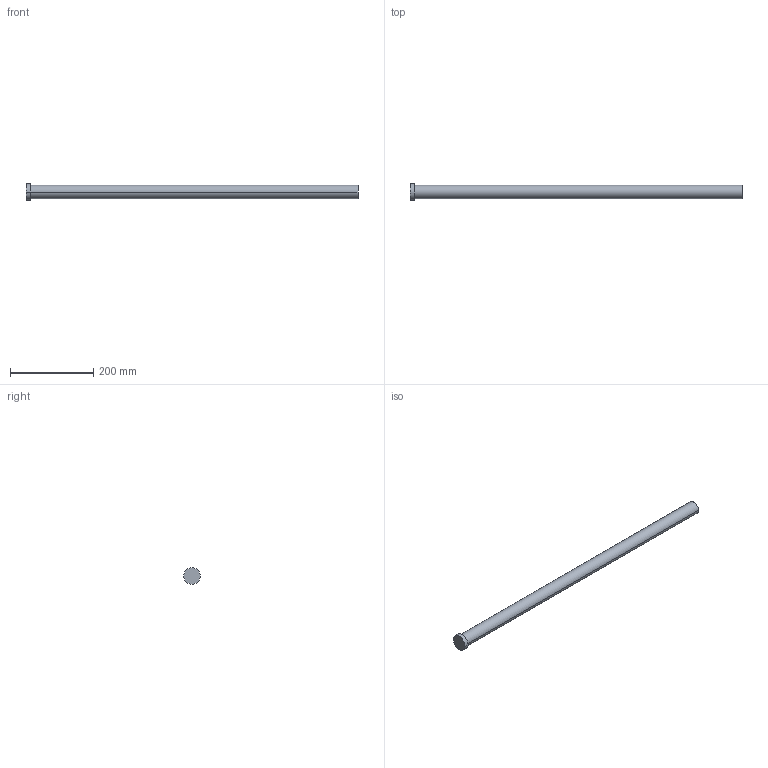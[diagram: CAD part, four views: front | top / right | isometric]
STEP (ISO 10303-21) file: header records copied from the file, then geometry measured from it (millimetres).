
FILE_DESCRIPTION (( 'STEP AP214' ), '1' );
FILE_NAME ('A-32x800.STEP', '2020-05-29T16:31:36', ( 'August' ), ( '' ), 'SwSTEP 2.0', 'SolidWorks 2018', '' );
FILE_SCHEMA (( 'AUTOMOTIVE_DESIGN' ));
Length unit declared in the file: millimetre
Products named in the file (1): A-32x800
Bounding box: 800 x 40 x 40 mm (x, y, z)
Volume: 647943.9 mm3; surface area: 83146.7 mm2
Topology: 1 solids, 1 shells, 9 faces, 16 edges, 10 vertices
Faces by surface type: cylinder 4, plane 3, torus 2
Entity records: 260 total; most frequent: DIRECTION 48, CARTESIAN_POINT 36, ORIENTED_EDGE 32, AXIS2_PLACEMENT_3D 22, EDGE_CURVE 16, CIRCLE 12, VERTEX_POINT 10, EDGE_LOOP 10
